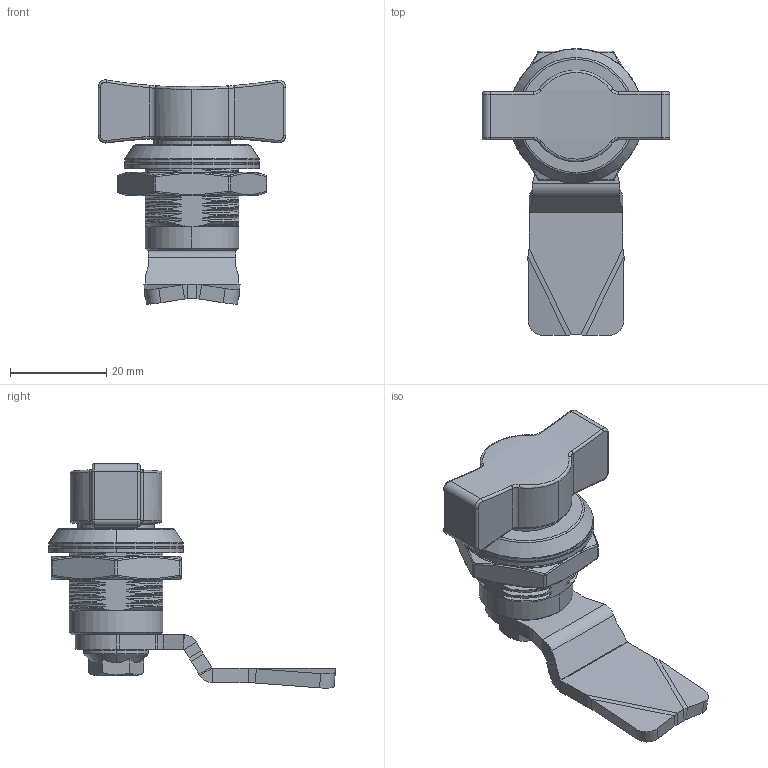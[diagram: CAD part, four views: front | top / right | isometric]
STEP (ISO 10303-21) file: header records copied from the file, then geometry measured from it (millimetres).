
FILE_DESCRIPTION (( 'STEP AP214' ), '1' );
FILE_NAME ('CUYUE.D4-1611-1.STEP', '2026-06-17T02:52:30', ( '' ), ( '' ), 'SwSTEP 2.0', 'SolidWorks 2020', '' );
FILE_SCHEMA (( 'AUTOMOTIVE_DESIGN' ));
Length unit declared in the file: millimetre
Products named in the file (9): M22x1砎蝶菜; H9X0.3等產え; M6X8蹟隊; CAMD4507; CUYUE.D4-1611-1; D4-1611-1忒梟; J-M22蹟譫; D4-1611-1坶褲; 16X2密封圈
Assembly tree (8 placements, depth 2):
  CUYUE.D4-1611-1
    D4-1611-1忒梟
    D4-1611-1坶褲
    16X2密封圈
    H9X0.3等產え
    M22x1砎蝶菜
    J-M22蹟譫
    CAMD4507
    M6X8蹟隊
Bounding box: 39 x 59.56 x 46.61 mm (x, y, z)
Volume: 17926.3 mm3; surface area: 13226.9 mm2
Topology: 8 solids, 8 shells, 719 faces, 1846 edges, 1137 vertices
Faces by surface type: cylinder 297, bspline 186, plane 118, torus 60, cone 38, sphere 20
Entity records: 100647 total; most frequent: CARTESIAN_POINT 84728, ORIENTED_EDGE 3668, DIRECTION 2672, EDGE_CURVE 1834, VERTEX_POINT 1137, AXIS2_PLACEMENT_3D 1041, EDGE_LOOP 741, ADVANCED_FACE 719
